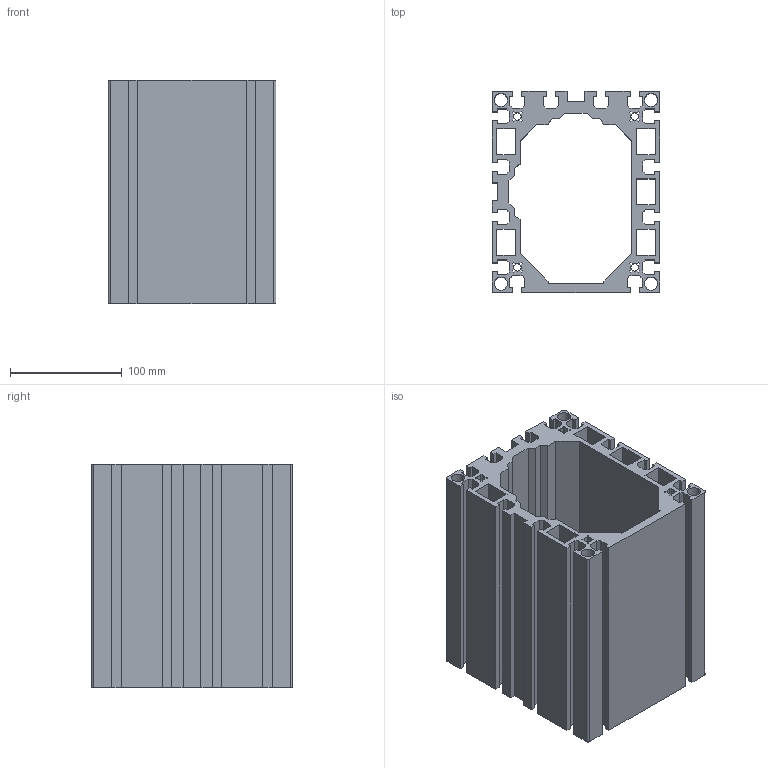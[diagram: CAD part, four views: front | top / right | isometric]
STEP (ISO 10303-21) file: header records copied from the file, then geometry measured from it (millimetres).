
FILE_DESCRIPTION (( 'STEP AP203' ), '1' );
FILE_NAME ('013984 REF 150180.STEP', '2015-12-01T11:51:09', ( '' ), ( '' ), 'SwSTEP 2.0', 'SolidWorks 2015', '' );
FILE_SCHEMA (( 'CONFIG_CONTROL_DESIGN' ));
Length unit declared in the file: millimetre
Products named in the file (1): 013984 REF 150180
Bounding box: 150 x 180 x 200 mm (x, y, z)
Volume: 1528926.3 mm3; surface area: 492276.2 mm2
Topology: 1 solids, 1 shells, 282 faces, 840 edges, 560 vertices
Faces by surface type: plane 250, cylinder 32
Entity records: 9461 total; most frequent: CARTESIAN_POINT 1683, ORIENTED_EDGE 1680, DIRECTION 1470, EDGE_CURVE 840, LINE 776, VECTOR 776, VERTEX_POINT 560, AXIS2_PLACEMENT_3D 347
